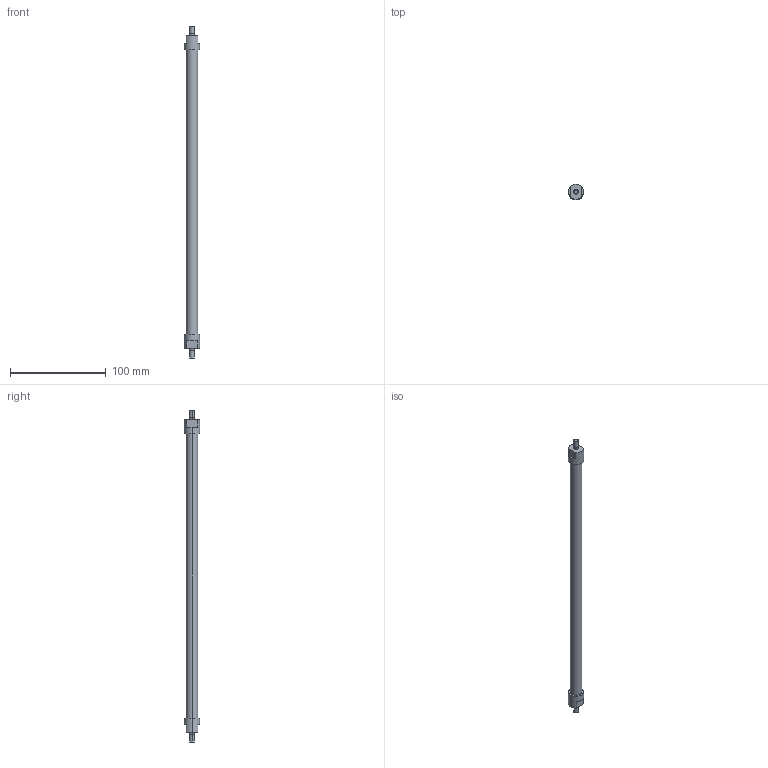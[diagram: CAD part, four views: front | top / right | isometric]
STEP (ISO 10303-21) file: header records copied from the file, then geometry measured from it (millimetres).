
FILE_DESCRIPTION(('STEP AP214'),'1');
FILE_NAME('ETT-R025N335.stp','2015-02-04T08:20:02',(' '),(' '),'Spatial InterOp 3D',' ',' ');
FILE_SCHEMA(('automotive_design'));
Length unit declared in the file: metre
Products named in the file (3): 1; 2; 3
Bounding box: 16 x 16 x 346 mm (x, y, z)
Volume: 39437.2 mm3; surface area: 13748 mm2
Topology: 1 solids, 7 shells, 30 faces, 81 edges, 63 vertices
Faces by surface type: plane 16, cylinder 14
Entity records: 1295 total; most frequent: DIRECTION 194, CARTESIAN_POINT 177, ORIENTED_EDGE 138, EDGE_CURVE 81, AXIS2_PLACEMENT_3D 80, VERTEX_POINT 63, CIRCLE 47, EDGE_LOOP 36
